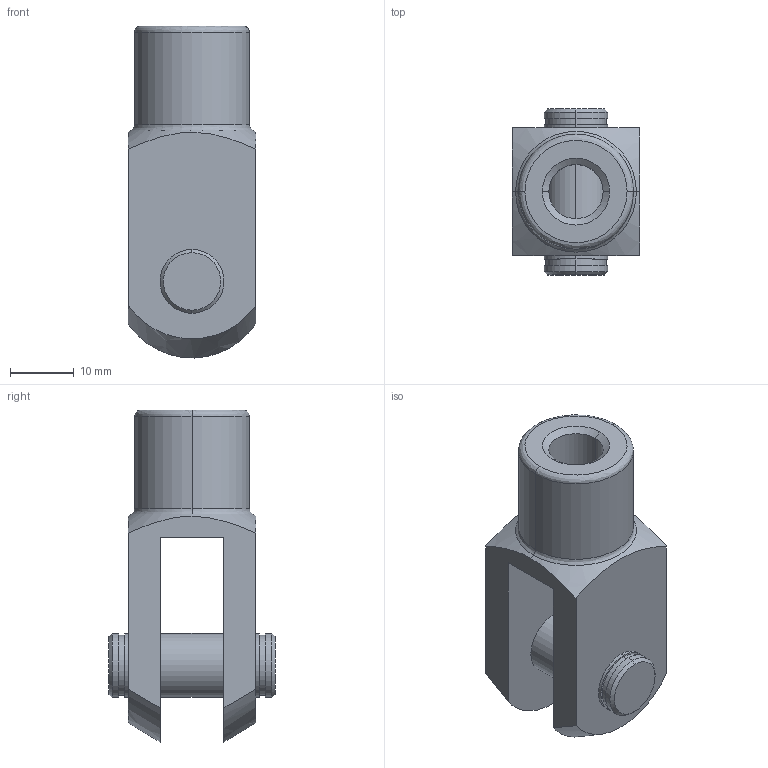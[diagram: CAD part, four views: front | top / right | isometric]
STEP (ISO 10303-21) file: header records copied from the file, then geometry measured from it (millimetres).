
FILE_DESCRIPTION (( 'STEP AP214' ), '1' );
FILE_NAME ('WCBK-032 (3DMY).STEP', '2017-11-20T14:10:50', ( 'Hidtek' ), ( '' ), 'SwSTEP 2.0', 'SolidWorks 2016', '' );
FILE_SCHEMA (( 'AUTOMOTIVE_DESIGN' ));
Length unit declared in the file: millimetre
Products named in the file (3): WCBK-032 (3DMY); 1; 2
Assembly tree (2 placements, depth 2):
  WCBK-032 (3DMY)
    1
    2
Bounding box: 20 x 26 x 52 mm (x, y, z)
Volume: 11389.3 mm3; surface area: 6174.6 mm2
Topology: 2 solids, 2 shells, 143 faces, 366 edges, 240 vertices
Faces by surface type: plane 97, cylinder 20, bspline 18, cone 8
Entity records: 5938 total; most frequent: CARTESIAN_POINT 1376, ORIENTED_EDGE 732, DIRECTION 642, EDGE_CURVE 366, LINE 278, VECTOR 278, VERTEX_POINT 240, AXIS2_PLACEMENT_3D 182
